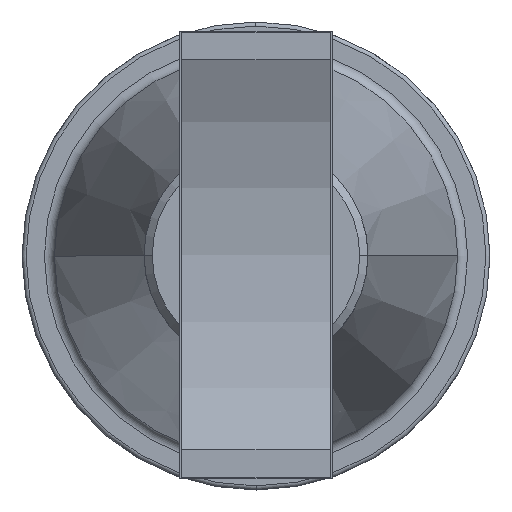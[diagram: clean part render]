
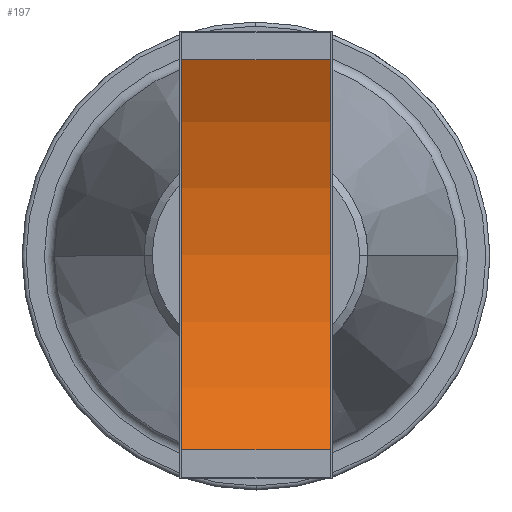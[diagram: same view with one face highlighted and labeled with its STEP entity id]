
A CAD part, top view. The second image highlights one B-rep face of the part: STEP entity #197.
In plain terms, the highlighted cylindrical face has radius 203.2 mm (diameter 406.4 mm), a partial arc.
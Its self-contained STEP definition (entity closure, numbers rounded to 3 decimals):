
#197=ADVANCED_FACE('',(#478),#479,.F.);
#478=FACE_OUTER_BOUND('',#884,.T.);
#479=CYLINDRICAL_SURFACE('',#885,203.2);
#884=EDGE_LOOP('',(#1264,#1265,#1266,#1267));
#885=AXIS2_PLACEMENT_3D('',#1268,#1269,#1270);
#1264=ORIENTED_EDGE('',*,*,#2295,.T.);
#1265=ORIENTED_EDGE('',*,*,#2296,.F.);
#1266=ORIENTED_EDGE('',*,*,#2297,.T.);
#1267=ORIENTED_EDGE('',*,*,#2292,.T.);
#1268=CARTESIAN_POINT('',(535.448,664.338,251.6));
#1269=DIRECTION('',(1.0,0.,0.));
#1270=DIRECTION('',(0.,1.0,0.));
#2292=EDGE_CURVE('',#2701,#2699,#2702,.T.);
#2295=EDGE_CURVE('',#2699,#2705,#2706,.T.);
#2296=EDGE_CURVE('',#2707,#2705,#2708,.T.);
#2297=EDGE_CURVE('',#2707,#2701,#2709,.T.);
#2699=VERTEX_POINT('',#3287);
#2701=VERTEX_POINT('',#3290);
#2702=LINE('',#3291,#3292);
#2705=VERTEX_POINT('',#3296);
#2706=CIRCLE('',#3297,203.2);
#2707=VERTEX_POINT('',#3298);
#2708=LINE('',#3299,#3300);
#2709=CIRCLE('',#3301,203.2);
#3287=CARTESIAN_POINT('',(608.448,568.539,72.4));
#3290=CARTESIAN_POINT('',(535.448,568.539,72.4));
#3291=CARTESIAN_POINT('',(535.448,568.539,72.4));
#3292=VECTOR('',#4585,1.0);
#3296=CARTESIAN_POINT('',(608.448,760.138,72.4));
#3297=AXIS2_PLACEMENT_3D('',#4587,#4588,#4589);
#3298=CARTESIAN_POINT('',(535.448,760.138,72.4));
#3299=CARTESIAN_POINT('',(535.448,760.138,72.4));
#3300=VECTOR('',#4590,1.0);
#3301=AXIS2_PLACEMENT_3D('',#4591,#4592,#4593);
#4585=DIRECTION('',(1.0,0.,0.));
#4587=CARTESIAN_POINT('',(608.448,664.338,251.6));
#4588=DIRECTION('',(1.0,0.,0.));
#4589=DIRECTION('',(0.,1.0,0.));
#4590=DIRECTION('',(1.0,0.,0.));
#4591=CARTESIAN_POINT('',(535.448,664.338,251.6));
#4592=DIRECTION('',(-1.0,0.,0.));
#4593=DIRECTION('',(0.,1.0,0.));
